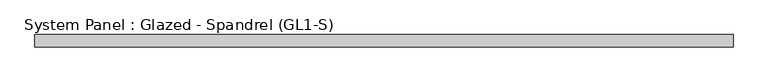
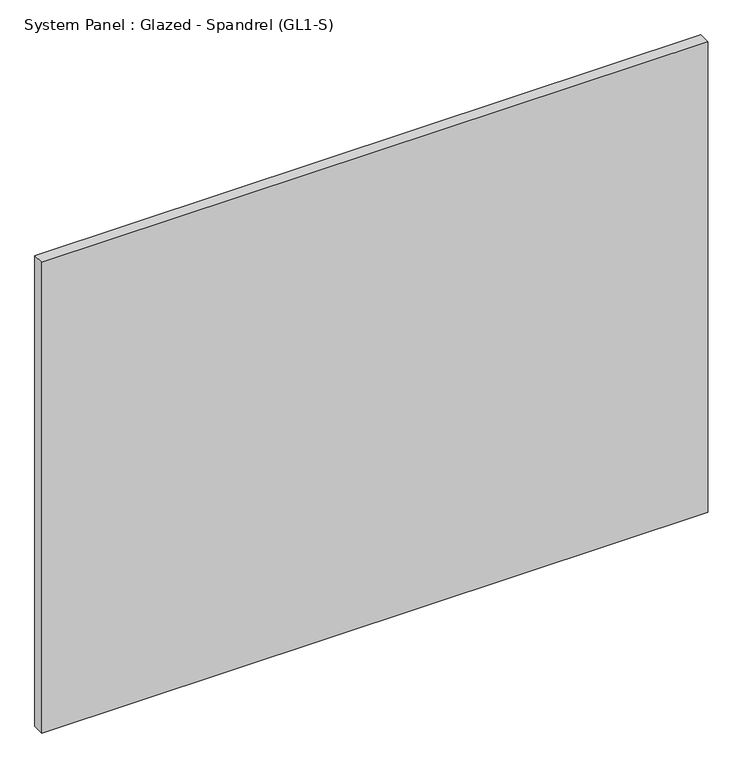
"""IFC4 building model written with IfcOpenShell, lengths in millimetres: plate geometry, System Panel : Glazed - Spandrel (GL1-S)."""

from ifc_helpers import new_model, si_unit, origin, origin_with_axes, place, context, project, spatial, polyline, outline, extrude, source, transform, mapped, element, save


def system_panel_glazed_spandrel_gl1_s_49129d44(model_context):
    return source(origin(), model_context, "Body", "SweptSolid", [
        extrude(outline(polyline([(714.375, -25.4), (-714.375, -25.4), (-714.375, 0.0), (714.375, 0.0), (714.375, -25.4)])), origin_with_axes(), (0.0, 0.0, 1.0), 1066.8),
    ])


if __name__ == "__main__":
    model = new_model("IFC4")
    model_context = context("Model", 3, world=origin())
    ifc_project = project(units=[si_unit("LENGTHUNIT", "METRE", prefix="MILLI")], contexts=[model_context])
    site = spatial("IfcSite", under=ifc_project)
    building = spatial("IfcBuilding", under=site)
    placement = place(None, origin())
    system_panel_glazed_spandrel_gl1_s_shape = system_panel_glazed_spandrel_gl1_s_49129d44(model_context)
    element("IfcPlate", 1, ObjectType="System Panel : Glazed - Spandrel (GL1-S)", at=placement, inside=building, context=model_context, shape_type="MappedRepresentation", body=[
        mapped(system_panel_glazed_spandrel_gl1_s_shape, transform((0.0, 0.0, 0.0), x_axis=(1.0, 0.0, 0.0), y_axis=(0.0, 1.0, 0.0), z_axis=(0.0, 0.0, 1.0))),
    ])
    save(model, "model.ifc")
